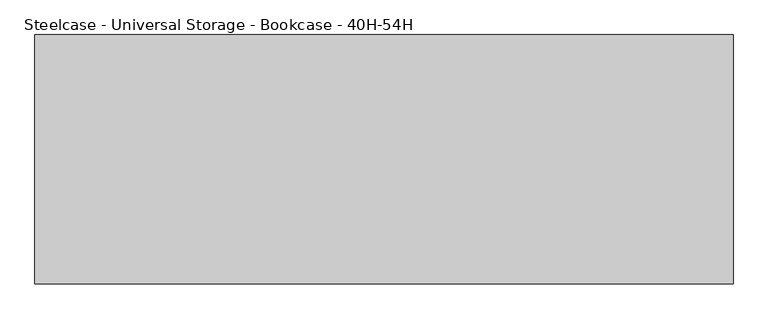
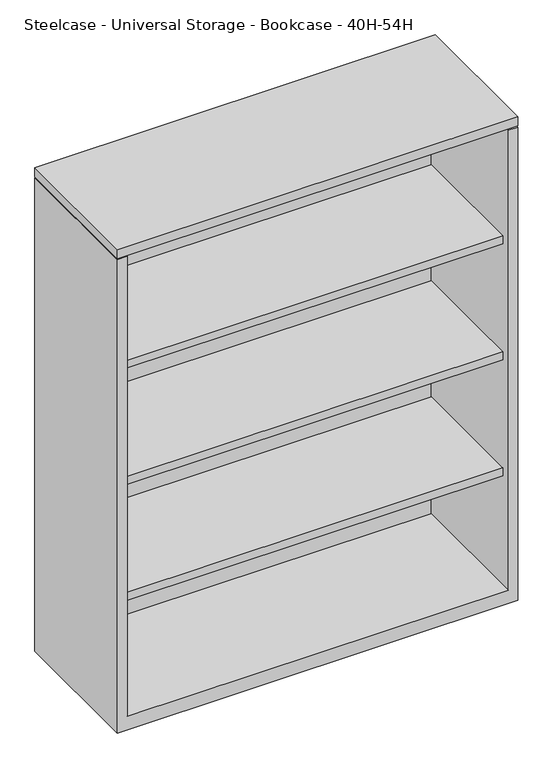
"""IFC4 building model written with IfcOpenShell, lengths in millimetres: furniture geometry, Steelcase - Universal Storage - Bookcase - 40H-54H : 53 1/2H x 42W."""

from ifc_helpers import new_model, si_unit, frame, origin, place, context, project, spatial, polyline, outline, extrude, faceted_brep, source, transform, mapped, element, save


def steelcase_universal_storage_bookcase_40h_54h_a37ff123(model_context):
    return source(origin(), model_context, "Body", "SolidModel", [
        extrude(outline(polyline([(1066.8, -98.552), (1066.8, -479.552), (0.0, -479.552), (0.0, -98.552), (1066.8, -98.552)])), frame((0.0, 0.0, 1336.5479031), z_axis=(0.0, 0.0, 1.0), x_axis=(1.0, 0.0, 0.0)), (0.0, 0.0, 1.0), 25.4000484),
        extrude(outline(polyline([(1041.4000242, -123.9520008), (1041.4000242, -454.0250121), (25.4000008, -454.0250121), (25.4000008, -123.9520008), (1041.4000242, -123.9520008)])), frame((0.0, 0.0, 344.424), z_axis=(0.0, 0.0, 1.0), x_axis=(1.0, 0.0, 0.0)), (0.0, 0.0, 1.0), 22.2249516),
        extrude(outline(polyline([(1041.4000242, -123.9520008), (1041.4000242, -454.0250121), (25.4000008, -454.0250121), (25.4000008, -123.9520008), (1041.4000242, -123.9520008)])), frame((0.0, 0.0, 671.4489516), z_axis=(0.0, 0.0, 1.0), x_axis=(1.0, 0.0, 0.0)), (0.0, 0.0, 1.0), 22.2249516),
        extrude(outline(polyline([(1041.4000242, -123.9520008), (1041.4000242, -454.0250121), (25.4000008, -454.0250121), (25.4000008, -123.9520008), (1041.4000242, -123.9520008)])), frame((0.0, 0.0, 998.4739031), z_axis=(0.0, 0.0, 1.0), x_axis=(1.0, 0.0, 0.0)), (0.0, 0.0, 1.0), 22.2249516),
        faceted_brep([(25.4000008, -479.552, 38.1), (1041.4000242, -479.552, 38.1), (1041.4000242, -123.9520008, 38.1), (25.4000008, -123.9520008, 38.1), (1066.8, -98.552, 0.0), (1066.8, -479.552, 0.0), (0.0, -479.552, 0.0), (0.0, -98.552, 0.0), (0.0, -98.552, 1333.5), (1066.8, -98.552, 1333.5), (0.0, -479.552, 1333.5), (1066.8, -479.552, 1333.5), (1041.4000242, -479.552, 1333.5), (25.4000008, -479.552, 1333.5), (1041.4000242, -123.9520008, 1333.5), (25.4000008, -123.9520008, 1333.5)], [[[0, 1, 2, 3]], [[4, 5, 6, 7]], [[4, 7, 8, 9]], [[8, 7, 6, 10]], [[10, 6, 5, 11, 12, 1, 0, 13]], [[11, 5, 4, 9]], [[14, 12, 11, 9, 8, 10, 13, 15]], [[12, 14, 2, 1]], [[15, 13, 0, 3]], [[14, 15, 3, 2]]]),
    ])


if __name__ == "__main__":
    model = new_model("IFC4")
    model_context = context("Model", 3, world=origin())
    ifc_project = project(units=[si_unit("LENGTHUNIT", "METRE", prefix="MILLI")], contexts=[model_context])
    site = spatial("IfcSite", under=ifc_project)
    building = spatial("IfcBuilding", under=site)
    placement = place(None, origin())
    steelcase_universal_storage_bookcase_40h_54h_shape = steelcase_universal_storage_bookcase_40h_54h_a37ff123(model_context)
    element("IfcFurniture", 1, ObjectType="Steelcase - Universal Storage - Bookcase - 40H-54H : 53 1/2H x 42W", at=placement, inside=building, context=model_context, shape_type="MappedRepresentation", body=[
        mapped(steelcase_universal_storage_bookcase_40h_54h_shape, transform((0.0, 0.0, 0.0), x_axis=(1.0, 0.0, 0.0), y_axis=(0.0, 1.0, 0.0), z_axis=(0.0, 0.0, 1.0))),
    ])
    save(model, "model.ifc")
